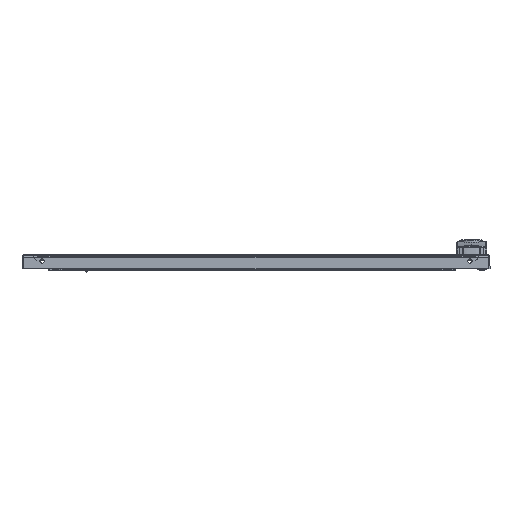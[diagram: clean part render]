
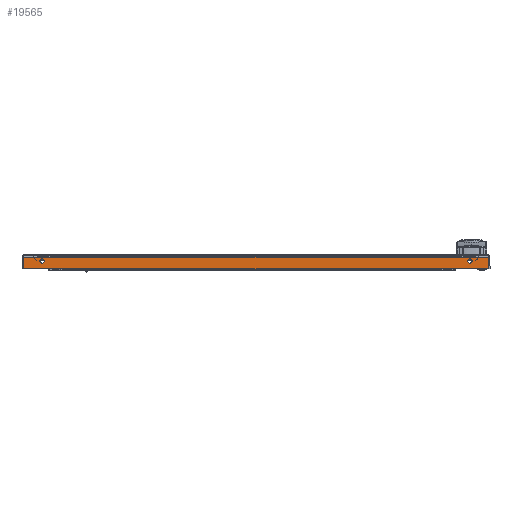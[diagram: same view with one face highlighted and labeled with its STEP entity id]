
A CAD part, front view. The second image highlights one B-rep face of the part: STEP entity #19565.
In plain terms, the highlighted planar face has unit normal (0, -1, 0).
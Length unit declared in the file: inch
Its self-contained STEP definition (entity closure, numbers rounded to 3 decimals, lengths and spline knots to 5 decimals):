
#5224 = AXIS2_PLACEMENT_3D ( 'NONE', #7438, #7446, #7447 ) ;
#6837 = CARTESIAN_POINT ( 'NONE',  ( 10.759, -30.2955, -0.259 ) ) ;
#6838 = CARTESIAN_POINT ( 'NONE',  ( 10.54, -30.2955, -0.259 ) ) ;
#6845 = CARTESIAN_POINT ( 'NONE',  ( -10.54, -30.2955, -0.259 ) ) ;
#6846 = CARTESIAN_POINT ( 'NONE',  ( -10.759, -30.2955, -0.259 ) ) ;
#6945 = CARTESIAN_POINT ( 'NONE',  ( 11.5735, -30.2955, -0.063 ) ) ;
#6948 = CARTESIAN_POINT ( 'NONE',  ( -11.5735, -30.2955, -0.063 ) ) ;
#6951 = CARTESIAN_POINT ( 'NONE',  ( 11.5735, -30.2955, -0.634 ) ) ;
#6952 = CARTESIAN_POINT ( 'NONE',  ( -11.5735, -30.2955, -0.634 ) ) ;
#7438 = CARTESIAN_POINT ( 'NONE',  ( -11.6495, -30.2955, 0. ) ) ;
#7445 = PLANE ( 'NONE',  #5224 ) ;
#7446 = DIRECTION ( 'NONE',  ( 0., 1., 0. ) ) ;
#7447 = DIRECTION ( 'NONE',  ( 0., 0., 1. ) ) ;
#7485 = FACE_BOUND ( 'NONE', #31681, .T. ) ;
#7491 = FACE_BOUND ( 'NONE', #31687, .T. ) ;
#7493 = FACE_OUTER_BOUND ( 'NONE', #31688, .T. ) ;
#7781 = CARTESIAN_POINT ( 'NONE',  ( 10.6495, -30.2955, -0.259 ) ) ;
#7783 = DIRECTION ( 'NONE',  ( 0., 1., 0. ) ) ;
#7784 = DIRECTION ( 'NONE',  ( 0., 0., 1. ) ) ;
#7801 = CARTESIAN_POINT ( 'NONE',  ( -10.6495, -30.2955, -0.259 ) ) ;
#7803 = DIRECTION ( 'NONE',  ( 0., 1., 0. ) ) ;
#7804 = DIRECTION ( 'NONE',  ( 0., 0., 1. ) ) ;
#7874 = AXIS2_PLACEMENT_3D ( 'NONE', #7781, #7783, #7784 ) ;
#7878 = AXIS2_PLACEMENT_3D ( 'NONE', #7801, #7803, #7804 ) ;
#7896 = AXIS2_PLACEMENT_3D ( 'NONE', #8734, #8740, #8741 ) ;
#7897 = AXIS2_PLACEMENT_3D ( 'NONE', #8732, #8742, #8743 ) ;
#8014 = CIRCLE ( 'NONE', #7874, 0.1095 ) ;
#8027 = CIRCLE ( 'NONE', #7878, 0.1095 ) ;
#8539 = LINE ( 'NONE', #8722, #8547 ) ;
#8540 = LINE ( 'NONE', #8674, #8541 ) ;
#8541 = VECTOR ( 'NONE', #8675, 39.37008 ) ;
#8543 = LINE ( 'NONE', #8723, #8544 ) ;
#8544 = VECTOR ( 'NONE', #8724, 39.37008 ) ;
#8547 = VECTOR ( 'NONE', #8726, 39.37008 ) ;
#8557 = LINE ( 'NONE', #8738, #8558 ) ;
#8558 = VECTOR ( 'NONE', #8739, 39.37008 ) ;
#8561 = CIRCLE ( 'NONE', #7896, 0.1095 ) ;
#8562 = CIRCLE ( 'NONE', #7897, 0.1095 ) ;
#8674 = CARTESIAN_POINT ( 'NONE',  ( -11.6495, -30.2955, -0.634 ) ) ;
#8675 = DIRECTION ( 'NONE',  ( 1., 0., 0. ) ) ;
#8722 = CARTESIAN_POINT ( 'NONE',  ( 11.6495, -30.2955, -0.063 ) ) ;
#8723 = CARTESIAN_POINT ( 'NONE',  ( -11.5735, -30.2955, 0. ) ) ;
#8724 = DIRECTION ( 'NONE',  ( 0., 0., 1. ) ) ;
#8726 = DIRECTION ( 'NONE',  ( 1., 0., 0. ) ) ;
#8732 = CARTESIAN_POINT ( 'NONE',  ( -10.6495, -30.2955, -0.259 ) ) ;
#8734 = CARTESIAN_POINT ( 'NONE',  ( 10.6495, -30.2955, -0.259 ) ) ;
#8738 = CARTESIAN_POINT ( 'NONE',  ( 11.5735, -30.2955, 0. ) ) ;
#8739 = DIRECTION ( 'NONE',  ( 0., 0., 1. ) ) ;
#8740 = DIRECTION ( 'NONE',  ( 0., 1., 0. ) ) ;
#8741 = DIRECTION ( 'NONE',  ( 0., 0., 1. ) ) ;
#8742 = DIRECTION ( 'NONE',  ( 0., 1., 0. ) ) ;
#8743 = DIRECTION ( 'NONE',  ( 0., 0., 1. ) ) ;
#19565 = ADVANCED_FACE ( 'NONE', ( #7485, #7491, #7493 ), #7445, .F. ) ;
#23441 = VERTEX_POINT ( 'NONE', #6837 ) ;
#23442 = VERTEX_POINT ( 'NONE', #6838 ) ;
#23449 = VERTEX_POINT ( 'NONE', #6845 ) ;
#23450 = VERTEX_POINT ( 'NONE', #6846 ) ;
#23549 = VERTEX_POINT ( 'NONE', #6945 ) ;
#23552 = VERTEX_POINT ( 'NONE', #6948 ) ;
#23555 = VERTEX_POINT ( 'NONE', #6951 ) ;
#23556 = VERTEX_POINT ( 'NONE', #6952 ) ;
#31681 = EDGE_LOOP ( 'NONE', ( #33327, #33328 ) ) ;
#31687 = EDGE_LOOP ( 'NONE', ( #33330, #33332 ) ) ;
#31688 = EDGE_LOOP ( 'NONE', ( #33334, #33335, #33336, #33338 ) ) ;
#33327 = ORIENTED_EDGE ( 'NONE', *, *, #35115, .T. ) ;
#33328 = ORIENTED_EDGE ( 'NONE', *, *, #34799, .T. ) ;
#33330 = ORIENTED_EDGE ( 'NONE', *, *, #35117, .T. ) ;
#33332 = ORIENTED_EDGE ( 'NONE', *, *, #34814, .T. ) ;
#33334 = ORIENTED_EDGE ( 'NONE', *, *, #35087, .T. ) ;
#33335 = ORIENTED_EDGE ( 'NONE', *, *, #35113, .T. ) ;
#33336 = ORIENTED_EDGE ( 'NONE', *, *, #35103, .F. ) ;
#33338 = ORIENTED_EDGE ( 'NONE', *, *, #35101, .F. ) ;
#34799 = EDGE_CURVE ( 'NONE', #23441, #23442, #8014, .T. ) ;
#34814 = EDGE_CURVE ( 'NONE', #23449, #23450, #8027, .T. ) ;
#35087 = EDGE_CURVE ( 'NONE', #23556, #23555, #8540, .T. ) ;
#35101 = EDGE_CURVE ( 'NONE', #23556, #23552, #8543, .T. ) ;
#35103 = EDGE_CURVE ( 'NONE', #23552, #23549, #8539, .T. ) ;
#35113 = EDGE_CURVE ( 'NONE', #23555, #23549, #8557, .T. ) ;
#35115 = EDGE_CURVE ( 'NONE', #23442, #23441, #8561, .T. ) ;
#35117 = EDGE_CURVE ( 'NONE', #23450, #23449, #8562, .T. ) ;
